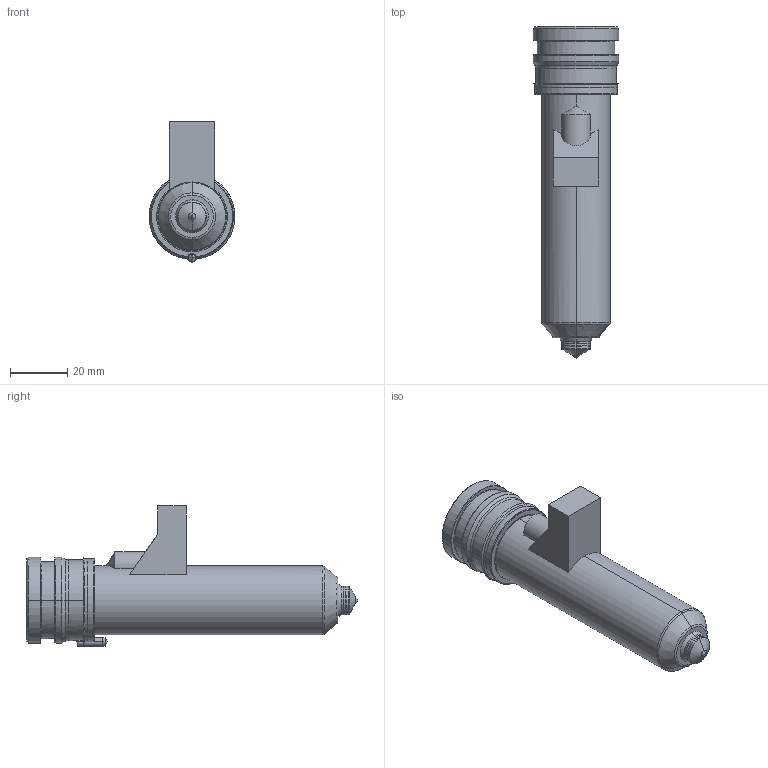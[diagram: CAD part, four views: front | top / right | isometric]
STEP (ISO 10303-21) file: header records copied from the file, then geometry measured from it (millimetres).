
FILE_DESCRIPTION((''),'2;1');
FILE_NAME('MPN-10-29-TS10-096-M','2026-02-05T12:49:14',('UPTIO'),('Thermoplay S.p.A.'),'CREO PARAMETRIC BY PTC INC, 2023494','CREO PARAMETRIC BY PTC INC, 2023494','');
FILE_SCHEMA(('CONFIG_CONTROL_DESIGN','SHAPE_APPEARANCE_LAYERS_GROUPS'));
Length unit declared in the file: millimetre
Products named in the file (1): MPN-10-29-TS10-096-M
Bounding box: 30 x 116 x 49 mm (x, y, z)
Volume: 37161.2 mm3; surface area: 38021.7 mm2
Topology: 3 solids, 5 shells, 542 faces, 1383 edges, 843 vertices
Faces by surface type: cylinder 177, plane 148, bspline 72, torus 67, cone 64, sphere 10, extrusion 4
Entity records: 27478 total; most frequent: CARTESIAN_POINT 11702, ORIENTED_EDGE 2748, DIRECTION 2578, EDGE_CURVE 1374, AXIS2_PLACEMENT_3D 1023, VERTEX_POINT 843, EDGE_LOOP 571, CIRCLE 556
